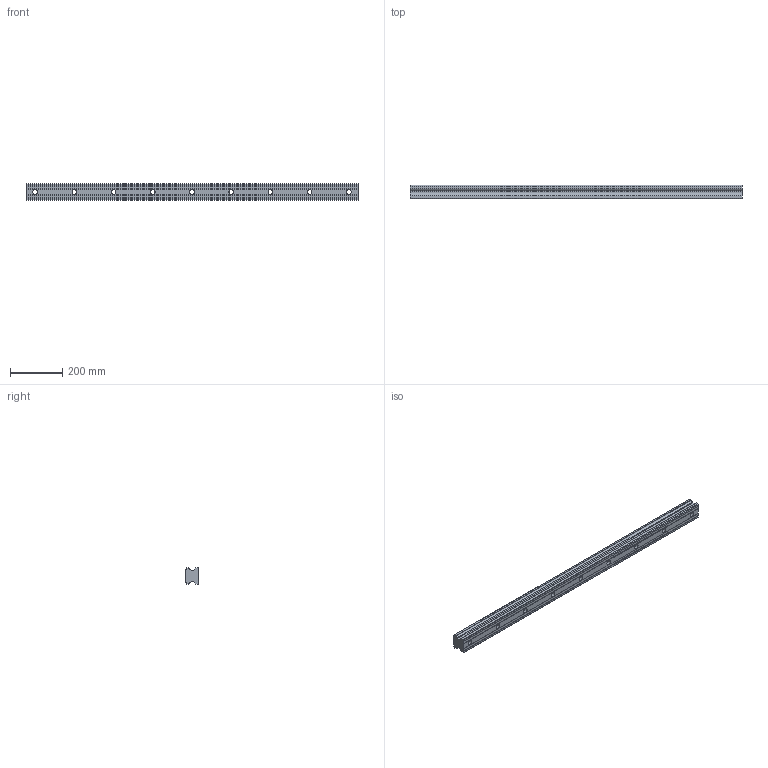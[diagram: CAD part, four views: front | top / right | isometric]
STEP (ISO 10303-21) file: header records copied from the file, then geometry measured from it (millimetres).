
FILE_DESCRIPTION(/* description */ ('STEP AP203'),/* implementation_level */ '2;1');
FILE_NAME(/* name */ 'HSR65X-1270L(GK) RAIL(35)',/* time_stamp */ '2024-05-21T04:46:24+02:00',/* author */ ('License CC BY-ND 4.0'),/* organization */ ('CADENAS'),/* preprocessor_version */ 'ST-DEVELOPER v19.3',/* originating_system */ 'PARTsolutions',/* authorisation */ ' ');
FILE_SCHEMA (('CONFIG_CONTROL_DESIGN'));
Length unit declared in the file: millimetre
Products named in the file (1): HSR65X-1270L(GK) RAIL(35)
Bounding box: 1270 x 53 x 63 mm (x, y, z)
Volume: 3478889.3 mm3; surface area: 341690.9 mm2
Topology: 1 solids, 1 shells, 59 faces, 144 edges, 96 vertices
Faces by surface type: plane 37, cylinder 22
Full cylindrical faces by diameter (mm): 18 x9, 26 x9
Entity records: 1718 total; most frequent: DIRECTION 290, CARTESIAN_POINT 282, ORIENTED_EDGE 252, EDGE_CURVE 126, EDGE_LOOP 104, FACE_BOUND 104, AXIS2_PLACEMENT_3D 104, VERTEX_POINT 96
